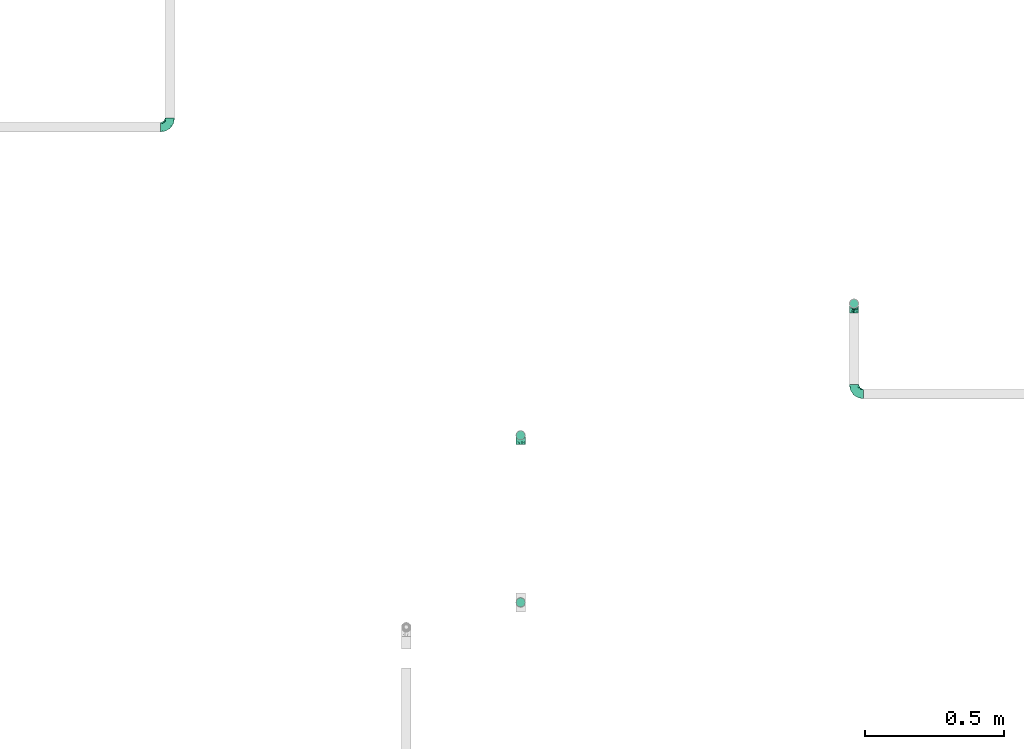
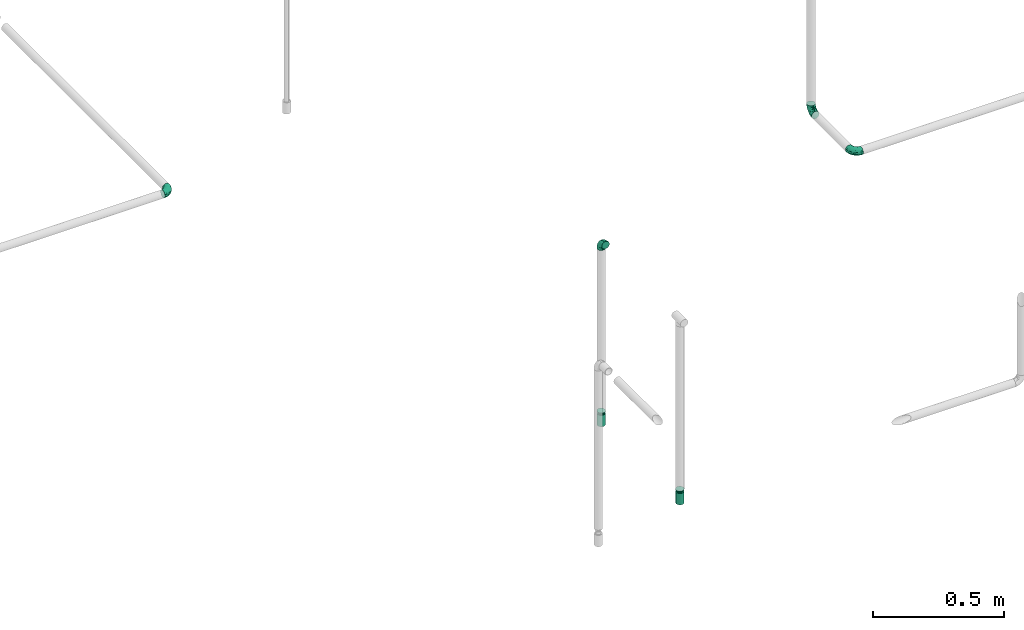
# One storey, part 54 of 94: 6 flow fittings, 2 flow terminals.
"""IFC2X3 building model written with IfcOpenShell, lengths in millimetres."""

from ifc_helpers import new_model, entity, si_unit, converted_unit, derived_unit, direction, frame, origin_with_axes, place, context, subcontext, project, spatial, open_shell, surface_model, source, transform, mapped, type_object, element, save


model = new_model("IFC2X3")

# Units and contexts
model_context = context("Model", 3, precision=0.01, world=frame((0.0, 4.29681676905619e-09, 0.0)), true_north=direction((4.01073788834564e-13, 1.0)))
plan_context = context("Plan", 3, precision=0.01, world=frame((0.0, 4.29681676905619e-09, 0.0)), true_north=direction((4.01073788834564e-13, 1.0)))
body_context = subcontext(model_context, "Body", "Model", "MODEL_VIEW")
ifc_project = project(units=[converted_unit("PLANEANGLEUNIT", "DEGREE", entity("IfcPositiveLengthMeasure", 0.0174532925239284), si_unit("PLANEANGLEUNIT", "RADIAN"), dimensions=[0, 0, 0, 0, 0, 0, 0]), si_unit("AREAUNIT", "SQUARE_METRE"), si_unit("LENGTHUNIT", "METRE", prefix="MILLI"), si_unit("MASSUNIT", "GRAM", prefix="KILO"), si_unit("POWERUNIT", "WATT"), si_unit("PRESSUREUNIT", "PASCAL", prefix="KILO"), si_unit("FORCEUNIT", "NEWTON", prefix="KILO"), si_unit("ELECTRICVOLTAGEUNIT", "VOLT"), si_unit("ELECTRICCURRENTUNIT", "AMPERE"), si_unit("THERMODYNAMICTEMPERATUREUNIT", "DEGREE_CELSIUS"), si_unit("TIMEUNIT", "SECOND"), si_unit("VOLUMEUNIT", "CUBIC_METRE"), derived_unit("LINEARVELOCITYUNIT", [(si_unit("LENGTHUNIT", "METRE"), 1), (si_unit("TIMEUNIT", "SECOND"), -1)]), derived_unit("VOLUMETRICFLOWRATEUNIT", [(si_unit("VOLUMEUNIT", "CUBIC_METRE"), 1), (si_unit("TIMEUNIT", "SECOND"), -1)]), derived_unit("THERMALTRANSMITTANCEUNIT", [(si_unit("POWERUNIT", "WATT"), 1), (si_unit("THERMODYNAMICTEMPERATUREUNIT", "KELVIN"), -1), (si_unit("AREAUNIT", "SQUARE_METRE"), -1)]), derived_unit("SOUNDPRESSUREUNIT", [(si_unit("PRESSUREUNIT", "PASCAL"), 1)])], contexts=[model_context, plan_context])

# Site, building, storey
site_placement = place(None, frame((0.0, -4.29681676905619e-09, 0.0), z_axis=(0.0, 0.0, 1.0), x_axis=(1.0, 0.0, 0.0)))
site = spatial("IfcSite", under=ifc_project, at=site_placement, CompositionType="ELEMENT")
building_placement = place(site_placement, frame((0.0, 4.29681676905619e-09, 0.0), z_axis=(0.0, 0.0, 1.0), x_axis=(1.0, 0.0, 0.0)))
building = spatial("IfcBuilding", under=site, at=building_placement, Name="mc-building", CompositionType="ELEMENT")
storey_placement = place(building_placement, frame((0.0, 0.0, 210900.0), z_axis=(0.0, 0.0, 1.0), x_axis=(1.0, 0.0, 0.0)))
storey = spatial("IfcBuildingStorey", under=building, at=storey_placement, Name="Nivå F", CompositionType="ELEMENT", Elevation=210900.0)

# Flow fittings
pipe_fitting_type_1 = type_object("IfcPipeFittingType", Name="magi_pipe_fe_elbow_short_001", PredefinedType="BEND")
shared_shape_1 = source(origin_with_axes(), body_context, "Body", "SurfaceModel", [
    surface_model("IfcShellBasedSurfaceModel", [(-33.8, 8.45, -14.63583), (-33.8, 4.37404, -16.32415), (-33.8, 11.9501, -11.9501), (-33.8, -11.9501, -11.9501), (-33.8, -14.63583, -8.45), (-33.8, -8.45, -14.63583), (-33.8, 0.0, -16.9), (-33.8, -4.37404, -16.32415), (-33.8, -4.37404, 16.32415), (-33.8, 0.0, 16.9), (-33.8, -8.45, 14.63583), (-33.8, 16.32415, -4.37404), (-33.8, 14.63583, -8.45), (-33.8, -16.32415, -4.37404), (-33.8, -16.9, 0.0), (-33.8, -16.32415, 4.37404), (-33.8, 11.9501, 11.9501), (-33.8, 14.63583, 8.45), (-33.8, 16.32415, 4.37404), (-33.8, 4.37404, 16.32415), (-33.8, 8.45, 14.63583), (-33.8, -14.63583, 8.45), (-33.8, -11.9501, 11.9501), (-33.8, 16.9, 0.0), (-11.9501, 33.8, -11.9501), (0.0, 33.8, -16.9), (-4.37404, 33.8, -16.32415), (-8.45, 33.8, -14.63583), (-14.63583, 33.8, -8.45), (-16.32415, 33.8, -4.37404), (14.63583, 33.8, -8.45), (8.45, 33.8, 14.63583), (16.32415, 33.8, -4.37404), (8.45, 33.8, -14.63583), (11.9501, 33.8, -11.9501), (4.37404, 33.8, -16.32415), (16.32415, 33.8, 4.37404), (16.9, 33.8, 0.0), (-11.9501, 33.8, 11.9501), (-16.32415, 33.8, 4.37404), (-14.63583, 33.8, 8.45), (-8.45, 33.8, 14.63583), (-4.37404, 33.8, 16.32415), (11.9501, 33.8, 11.9501), (14.63583, 33.8, 8.45), (0.0, 33.8, 16.9), (4.37404, 33.8, 16.32415), (-16.9, 33.8, 0.0), (-24.79389, -13.12945, 9.48721), (-22.19287, -9.75018, 12.59315), (-24.09897, -14.97035, 0.0), (-14.93934, -10.76256, 8.5297), (-22.46095, -14.75051, 5.27077), (14.75051, 22.46094, 5.27077), (11.9251, 13.23888, 4.33236), (13.04069, 14.39795, 0.0), (7.71387, 13.68847, 11.55891), (9.75018, 22.19287, 12.59315), (4.10169, 13.0571, 14.04018), (-24.84007, -6.39063, 15.2048), (-25.81779, -2.23879, 16.61097), (-23.66549, 2.59054, 16.87119), (-26.50418, 14.06512, 11.08152), (-24.21253, 17.66365, 7.72657), (-29.58514, 15.86957, 7.00283), (-6.17382, -7.5455, 0.0), (-13.23888, -11.9251, 4.33236), (-14.39795, -13.04069, 0.0), (-17.81434, 18.87373, 11.97104), (-6.30846, 29.15138, 15.82987), (-2.31622, 25.28002, 16.85849), (-29.23923, 10.23435, 13.77053), (-1.45439, -2.85688, 7.61475), (-0.28326, 0.34872, 10.09509), (-5.74484, -4.04709, 10.4122), (-4.41137, 11.31918, 16.59407), (-8.39727, 3.10034, 15.7812), (-1.72649, 9.1306, 15.53089), (-17.39909, 24.75344, 7.64977), (-26.19233, 20.0512, 0.0), (-28.14518, 17.29657, 4.25857), (-26.05147, 6.6281, 15.96447), (-5.87354, 16.61944, 16.86968), (-12.51807, 12.51807, 16.48937), (-10.06312, 7.38516, 16.81295), (-3.01882, 3.01882, 13.81718), (-13.0571, -4.10169, 14.04018), (-16.82553, -0.15166, 16.38038), (10.76256, 14.93934, 8.5297), (13.12945, 24.79389, 9.48721), (6.39063, 24.84007, 15.2048), (2.23879, 25.81779, 16.61097), (-13.68847, -7.71387, 11.55891), (14.97035, 24.09897, 0.0), (-7.30894, 22.89991, 16.09489), (-10.67958, 26.17414, 14.008), (-12.78295, 18.26924, 15.06066), (-13.88562, 22.45231, 12.93244), (-18.04944, 15.16501, 14.04434), (-23.11658, 20.08178, 4.02986), (-21.84989, 21.84989, 0.0), (-18.55817, 25.48277, 3.93065), (-13.95142, 26.94732, 11.03289), (-18.57098, 7.23906, 16.59756), (-16.58335, 4.14122, 16.89279), (-17.96666, 11.46709, 15.63151), (-9.84453, 17.54304, 16.18938), (0.15166, 16.82553, 16.38038), (-23.27207, 11.47201, 14.23154), (3.84842, 5.86994, 10.70473), (-8.0212, -7.54413, 7.93275), (1.00345, -2.19508, 4.57414), (5.13203, 3.01004, 5.90201), (5.24161, 1.7543, 2.53265), (8.70457, 7.04947, 3.99182), (-20.0512, 26.19233, 0.0), (8.4852, 8.76699, 7.09296), (-4.55488, -6.72064, 4.90681), (2.05031, -2.05031, 0.0), (7.5455, 6.17382, 0.0), (-26.75399, 2.1369, -16.845), (-14.61995, 24.73803, -11.27736), (-28.45274, -13.45335, -9.81895), (-26.00469, 6.63555, -15.96645), (-23.06726, 20.04573, -4.26202), (-13.80647, -4.26506, -14.17873), (-14.67501, -0.21081, -16.07388), (-6.7902, -0.2828, -13.8478), (-24.53586, 11.08096, -14.13417), (-26.72048, 14.00837, -11.05776), (10.0967, 24.44989, -12.75976), (5.83237, 21.40218, -15.03047), (6.66249, 28.54238, -15.38093), (-20.38182, 15.48705, -12.74596), (12.53268, 21.23441, -9.15363), (12.54494, 15.67504, -5.54878), (9.7522, 12.89279, -8.66343), (-15.65186, 19.64213, -13.01327), (-12.03528, 20.66498, -14.67665), (-15.61907, 15.61906, -14.83879), (-25.56551, -15.26206, 0.0), (-24.65452, -15.12934, -5.50955), (13.45335, 28.45274, -9.81895), (15.12934, 24.65452, -5.50955), (-7.35442, -8.31014, -5.65563), (-15.67504, -12.54494, -5.54878), (-24.44989, -10.0967, -12.75976), (0.16522, 0.41303, -9.71728), (-5.70658, -5.33066, -8.89288), (-5.13869, -2.37198, -11.53565), (-21.23441, -12.53268, -9.15363), (0.71146, 7.93863, -14.09382), (0.21081, 14.67501, -16.07388), (3.49291, 14.42772, -14.76381), (-24.89911, -2.13088, -16.591), (-28.54238, -6.66249, -15.38093), (-18.44386, -7.71663, -13.26957), (2.13088, 24.89911, -16.591), (-28.64342, 17.44413, -2.89318), (1.70017, -1.28722, -5.09504), (-16.57067, 26.81947, -7.36596), (-17.69055, 27.4263, -3.76405), (-12.89279, -9.7522, -8.66343), (-5.96611, 5.96611, -15.95814), (-20.53709, 20.09345, -8.28985), (-2.1369, 26.75399, -16.845), (-6.89872, 24.58781, -16.02578), (-10.60739, 26.53157, -13.98044), (-21.40218, -5.83237, -15.03047), (2.93192, 5.89627, -11.55917), (6.89393, 12.61842, -11.82233), (5.58056, 5.95325, -8.79455), (-3.99512, 18.61798, -16.89635), (8.31014, 7.35442, -5.65563), (-9.1383, 9.86148, -16.89041), (-9.99983, 16.02119, -16.39699), (-16.68576, 9.78031, -16.34199), (-27.01915, 16.61158, -7.12979), (15.26206, 25.56551, 0.0), (-18.61798, 3.99512, -16.89635), (-19.37495, 27.82495, 0.0), (-12.61842, -6.89393, -11.82233), (-18.84705, 19.14018, -10.96545)], [open_shell([[[0, 1, 2]], [[3, 4, 5]], [[6, 7, 5]], [[8, 9, 10]], [[1, 6, 2]], [[11, 12, 2]], [[4, 2, 6]], [[2, 13, 10]], [[5, 4, 6]], [[2, 4, 13]], [[14, 15, 13]], [[11, 2, 16]], [[11, 17, 18]], [[11, 16, 17]], [[19, 20, 16]], [[16, 2, 10]], [[19, 16, 10]], [[21, 22, 15]], [[22, 13, 15]], [[22, 10, 13]], [[10, 9, 19]], [[11, 18, 23]], [[24, 25, 26]], [[24, 26, 27]], [[24, 28, 29]], [[25, 24, 30]], [[31, 32, 24]], [[33, 30, 34]], [[33, 35, 25]], [[25, 30, 33]], [[32, 30, 24]], [[32, 36, 37]], [[38, 24, 29]], [[39, 40, 29]], [[40, 38, 29]], [[38, 41, 42]], [[38, 31, 24]], [[31, 38, 42]], [[36, 43, 44]], [[36, 32, 43]], [[31, 45, 46]], [[32, 31, 43]], [[42, 45, 31]], [[39, 29, 47]], [[22, 48, 49]], [[15, 14, 50]], [[51, 48, 52]], [[53, 54, 55]], [[48, 22, 21]], [[15, 52, 21]], [[56, 57, 58]], [[49, 10, 22]], [[49, 59, 10]], [[9, 60, 61]], [[62, 63, 64]], [[65, 66, 67]], [[57, 43, 31]], [[62, 68, 63]], [[42, 69, 70]], [[20, 71, 16]], [[8, 60, 9]], [[72, 73, 74]], [[75, 76, 77]], [[16, 62, 17]], [[40, 39, 78]], [[79, 23, 80]], [[64, 18, 17]], [[9, 61, 19]], [[19, 81, 20]], [[82, 83, 84]], [[74, 85, 86]], [[59, 86, 87]], [[88, 89, 57]], [[90, 31, 46]], [[44, 53, 36]], [[46, 45, 91]], [[54, 53, 88]], [[44, 89, 53]], [[92, 86, 49]], [[89, 44, 43]], [[10, 59, 8]], [[53, 55, 93]], [[93, 36, 53]], [[66, 52, 67]], [[94, 82, 70]], [[95, 96, 94]], [[97, 98, 96]], [[79, 99, 100]], [[41, 38, 95]], [[101, 100, 99]], [[68, 78, 63]], [[42, 41, 69]], [[23, 18, 80]], [[95, 94, 69]], [[78, 101, 99]], [[38, 102, 95]], [[70, 45, 42]], [[97, 95, 102]], [[15, 50, 52]], [[90, 57, 31]], [[57, 90, 58]], [[81, 19, 61]], [[103, 104, 84]], [[105, 81, 103]], [[38, 40, 102]], [[106, 96, 83]], [[94, 106, 82]], [[91, 70, 107]], [[71, 62, 16]], [[62, 108, 98]], [[86, 59, 49]], [[67, 52, 50]], [[60, 59, 87]], [[92, 49, 51]], [[86, 85, 76]], [[91, 90, 46]], [[37, 36, 93]], [[107, 77, 58]], [[107, 58, 90]], [[58, 85, 109]], [[110, 74, 92]], [[72, 74, 110]], [[66, 51, 52]], [[72, 111, 112]], [[113, 114, 112]], [[56, 88, 57]], [[52, 48, 21]], [[49, 48, 51]], [[57, 89, 43]], [[53, 89, 88]], [[103, 81, 61]], [[71, 81, 108]], [[18, 64, 80]], [[63, 78, 99]], [[47, 115, 101]], [[101, 115, 100]], [[40, 78, 102]], [[68, 102, 78]], [[97, 96, 95]], [[105, 98, 108]], [[103, 84, 83]], [[107, 70, 82]], [[76, 84, 87]], [[82, 84, 75]], [[70, 91, 45]], [[90, 91, 107]], [[59, 60, 8]], [[61, 60, 87]], [[73, 85, 74]], [[109, 112, 116]], [[103, 61, 104]], [[105, 103, 83]], [[96, 105, 83]], [[81, 105, 108]], [[96, 98, 105]], [[62, 98, 68]], [[61, 87, 104]], [[87, 84, 104]], [[86, 76, 87]], [[77, 76, 85]], [[58, 77, 85]], [[75, 77, 107]], [[82, 75, 107]], [[76, 75, 84]], [[81, 71, 20]], [[62, 71, 108]], [[95, 69, 41]], [[70, 69, 94]], [[62, 64, 17]], [[80, 63, 99]], [[63, 80, 64]], [[80, 99, 79]], [[66, 65, 117]], [[110, 66, 117]], [[112, 114, 116]], [[118, 117, 65]], [[110, 92, 51]], [[112, 111, 113]], [[119, 55, 54]], [[74, 86, 92]], [[58, 109, 56]], [[116, 56, 109]], [[66, 110, 51]], [[72, 110, 117]], [[111, 72, 117]], [[73, 112, 109]], [[117, 118, 111]], [[113, 111, 118]], [[118, 119, 113]], [[114, 119, 54]], [[119, 114, 113]], [[116, 54, 88]], [[54, 116, 114]], [[116, 88, 56]], [[112, 73, 72]], [[85, 73, 109]], [[78, 39, 101]], [[47, 101, 39]], [[102, 68, 97]], [[97, 68, 98]], [[82, 106, 83]], [[94, 96, 106]], [[1, 120, 6]], [[28, 24, 121]], [[3, 122, 4]], [[0, 123, 1]], [[100, 124, 79]], [[125, 126, 127]], [[128, 2, 129]], [[130, 131, 132]], [[128, 129, 133]], [[134, 135, 136]], [[137, 138, 139]], [[128, 0, 2]], [[67, 140, 141]], [[134, 142, 143]], [[141, 13, 4]], [[144, 65, 145]], [[146, 3, 5]], [[147, 148, 149]], [[145, 141, 150]], [[151, 152, 153]], [[154, 7, 6]], [[5, 155, 146]], [[150, 146, 156]], [[155, 5, 7]], [[143, 135, 134]], [[35, 157, 25]], [[23, 79, 158]], [[148, 159, 144]], [[160, 161, 29]], [[145, 162, 144]], [[163, 152, 151]], [[29, 28, 160]], [[121, 164, 160]], [[33, 34, 130]], [[25, 165, 26]], [[26, 165, 166]], [[142, 34, 30]], [[24, 27, 167]], [[124, 161, 164]], [[157, 35, 132]], [[155, 154, 168]], [[123, 0, 128]], [[169, 170, 171]], [[172, 157, 152]], [[26, 166, 27]], [[132, 35, 33]], [[142, 130, 34]], [[168, 154, 126]], [[136, 135, 173]], [[133, 137, 139]], [[2, 12, 129]], [[170, 131, 130]], [[30, 32, 143]], [[172, 174, 175]], [[176, 123, 128]], [[158, 177, 11]], [[135, 55, 119]], [[167, 27, 166]], [[175, 166, 172]], [[137, 167, 138]], [[122, 141, 4]], [[140, 14, 13]], [[32, 37, 178]], [[170, 130, 134]], [[152, 157, 131]], [[165, 157, 172]], [[153, 170, 151]], [[152, 163, 174]], [[168, 125, 156]], [[122, 146, 150]], [[120, 154, 6]], [[179, 174, 126]], [[179, 126, 154]], [[126, 163, 127]], [[162, 145, 150]], [[140, 13, 141]], [[32, 178, 143]], [[55, 143, 178]], [[177, 129, 12]], [[128, 133, 139]], [[176, 128, 139]], [[120, 123, 179]], [[121, 160, 28]], [[161, 100, 180]], [[166, 175, 138]], [[121, 24, 167]], [[161, 47, 29]], [[79, 124, 158]], [[124, 164, 177]], [[161, 124, 100]], [[136, 171, 170]], [[127, 163, 151]], [[147, 171, 159]], [[148, 144, 162]], [[127, 151, 169]], [[127, 181, 125]], [[129, 177, 164]], [[12, 11, 177]], [[159, 65, 144]], [[67, 141, 145]], [[143, 55, 135]], [[135, 119, 173]], [[123, 120, 1]], [[154, 120, 179]], [[157, 165, 25]], [[166, 165, 172]], [[172, 152, 174]], [[176, 139, 175]], [[126, 174, 163]], [[176, 174, 179]], [[174, 176, 175]], [[123, 176, 179]], [[150, 181, 162]], [[127, 149, 181]], [[181, 148, 162]], [[159, 148, 147]], [[171, 136, 173]], [[170, 134, 136]], [[159, 171, 173]], [[171, 147, 169]], [[169, 147, 149]], [[151, 170, 169]], [[164, 182, 129]], [[182, 121, 137]], [[181, 149, 148]], [[169, 149, 127]], [[182, 137, 133]], [[167, 137, 121]], [[166, 138, 167]], [[175, 139, 138]], [[129, 182, 133]], [[121, 182, 164]], [[161, 160, 164]], [[47, 161, 180]], [[177, 158, 124]], [[23, 158, 11]], [[130, 132, 33]], [[157, 132, 131]], [[143, 142, 30]], [[130, 142, 134]], [[154, 155, 7]], [[146, 155, 168]], [[146, 122, 3]], [[141, 122, 150]], [[152, 131, 153]], [[159, 119, 118]], [[67, 145, 65]], [[170, 153, 131]], [[119, 159, 173]], [[159, 118, 65]], [[156, 125, 181]], [[126, 125, 168]], [[150, 156, 181]], [[168, 156, 146]]])]),
])
for number, where, z_axis, x_axis, name in (
    (1, (723741.0277, 437906.03424, 3600.0), (0.0, 0.0, 1.0), (1.0, 0.0, 0.0), "magi_pipe_fe_elbow_short_001"),
    (2, (726197.10222, 436948.06941, 3500.0), (0.0, 0.0, 1.0), (0.0, -1.0, 0.0), "magi_pipe_fe_elbow_short_001"),
    (3, (726197.10222, 437273.06941, 3500.0), (1.0, 0.0, 0.0), (0.0, 1.0, 0.0), "magi_pipe_fe_elbow_short_001"),
    (4, (725000.0, 436800.0, 3600.0), (1.0, 0.0, 0.0), (0.0, 0.0, 1.0), "magi_pipe_fe_elbow_short_001"),
):
    element("IfcFlowFitting", number, at=place(storey_placement, frame(where, z_axis=z_axis, x_axis=x_axis)), inside=storey, type_object=pipe_fitting_type_1, Name=name, context=body_context, shape_type="MappedRepresentation", body=[
        mapped(shared_shape_1, transform((0.0, 0.0, 0.0), scale=1.0)),
    ])
pipe_fitting_type_2 = type_object("IfcPipeFittingType", Name="magi_pipe_fe_reducer_centric_short_NOR", PredefinedType="TRANSITION")
shared_shape_2 = source(origin_with_axes(), body_context, "Body", "SurfaceModel", [
    surface_model("IfcShellBasedSurfaceModel", [(-2.0, -7.56604, -7.56604), (-2.0, -10.33541, -2.76936), (-2.0, -5.35, -9.26647), (-2.0, 5.35, -9.26647), (-2.0, 10.33541, -2.76936), (-2.0, 7.56604, -7.56604), (12.4, 11.9501, 11.9501), (12.4, 0.0, 16.9), (12.4, 11.9501, -11.9501), (12.4, 16.9, 0.0), (0.0, -10.7, 0.0), (0.0, -5.35, 9.26647), (0.0, -5.35, -9.26647), (0.0, 10.7, 0.0), (12.4, 15.66253, -2.98753), (12.4, 8.96258, -13.18758), (0.0, 6.6875, -6.94985), (12.4, -15.66253, -2.98753), (12.4, -16.9, 0.0), (12.4, 5.97505, -14.42505), (0.0, 5.35, -9.26647), (12.4, 14.42505, -5.97505), (0.0, 8.025, -4.63324), (0.0, 9.3625, -2.31662), (0.0, -9.3625, -2.31662), (0.0, -8.025, -4.63324), (12.4, -14.42505, -5.97505), (12.4, 13.18758, -8.96258), (12.4, -13.18758, -8.96258), (12.4, -11.9501, -11.9501), (0.0, -6.6875, -6.94985), (12.4, -8.96258, -13.18758), (12.4, -5.97505, -14.42505), (12.4, -15.66253, 2.98753), (12.4, -8.96258, 13.18758), (0.0, -6.6875, 6.94985), (12.4, -11.9501, 11.9501), (12.4, 15.66253, 2.98753), (12.4, -5.97505, 14.42505), (12.4, -14.42505, 5.97505), (0.0, -8.025, 4.63324), (0.0, -9.3625, 2.31662), (0.0, 9.3625, 2.31662), (0.0, 8.025, 4.63324), (12.4, 14.42505, 5.97505), (12.4, -13.18758, 8.96258), (12.4, 13.18758, 8.96258), (0.0, 6.6875, 6.94985), (12.4, 8.96258, 13.18758), (0.0, 5.35, 9.26647), (12.4, 5.97505, 14.42505), (14.4, 4.37404, -16.32415), (14.4, 8.45, -14.63583), (14.4, 11.9501, -11.9501), (14.4, -8.45, -14.63583), (14.4, 16.32415, -4.37404), (14.4, 16.32415, 4.37404), (14.4, 14.63583, -8.45), (14.4, 0.0, -16.9), (14.4, -4.37404, -16.32415), (14.4, -11.9501, -11.9501), (14.4, -16.32415, -4.37404), (14.4, -14.63583, -8.45), (14.4, -16.32415, 4.37404), (14.4, 16.9, 0.0), (14.4, 14.63583, 8.45), (14.4, 11.9501, 11.9501), (14.4, 4.37404, 16.32415), (14.4, 8.45, 14.63583), (14.4, 0.0, 16.9), (14.4, -14.63583, 8.45), (14.4, -16.9, 0.0), (14.4, -8.45, 14.63583), (14.4, -11.9501, 11.9501), (14.4, -4.37404, 16.32415), (12.4, 4.37404, 16.32415), (12.4, -14.63583, 8.45), (12.4, 16.32415, 4.37404), (12.4, 8.45, 14.63583), (12.4, 14.63583, 8.45), (12.4, -8.45, 14.63583), (12.4, -4.37404, 16.32415), (12.4, -16.32415, 4.37404), (12.4, -16.32415, -4.37404), (12.4, -8.45, -14.63583), (12.4, 16.32415, -4.37404), (12.4, 14.63583, -8.45), (12.4, 8.45, -14.63583), (12.4, 4.37404, -16.32415), (12.4, 0.0, -16.9), (12.4, -14.63583, -8.45), (12.4, -4.37404, -16.32415), (-2.0, 2.76936, 10.33541), (-2.0, 0.0, 10.7), (-2.0, 5.35, 9.26647), (-2.0, 7.56604, 7.56604), (-2.0, 9.26647, 5.35), (-2.0, 10.33541, 2.76936), (-2.0, -10.33541, 2.76936), (-2.0, -2.76936, 10.33541), (-2.0, -7.56604, 7.56604), (-2.0, -5.35, 9.26647), (-2.0, -9.26647, 5.35), (-2.0, -10.7, 0.0), (-2.0, 9.26647, -5.35), (-2.0, 2.76936, -10.33541), (-2.0, -9.26647, -5.35), (-2.0, 0.0, -10.7), (-2.0, -2.76936, -10.33541), (-2.0, 10.7, 0.0), (0.0, 0.0, -10.7), (0.0, 2.76936, -10.33541), (0.0, 10.33541, -2.76936), (0.0, 7.56604, -7.56604), (0.0, -10.33541, -2.76936), (0.0, 9.26647, -5.35), (0.0, 0.0, 10.7), (0.0, -2.76936, -10.33541), (0.0, -7.56604, -7.56604), (0.0, -9.26647, -5.35), (0.0, 10.33541, 2.76936), (0.0, 9.26647, 5.35), (0.0, 7.56604, 7.56604), (0.0, 2.76936, 10.33541), (0.0, -7.56604, 7.56604), (0.0, -10.33541, 2.76936), (0.0, -9.26647, 5.35), (0.0, -2.76936, 10.33541), (0.0, 2.675, -9.26647), (0.0, -2.675, -9.26647), (12.4, 2.98753, -15.66253), (0.0, 0.0, -9.26647), (12.4, -2.98753, -15.66253), (0.0, -2.675, 9.26647), (0.0, 2.675, 9.26647), (12.4, -2.98753, 15.66253), (0.0, 0.0, 9.26647), (12.4, 2.98753, 15.66253)], [open_shell([[[0, 1, 2]], [[3, 4, 5]], [[6, 7, 8]], [[8, 9, 6]], [[10, 11, 12]], [[13, 9, 14]], [[15, 16, 8]], [[17, 18, 10]], [[15, 19, 20]], [[21, 22, 23]], [[24, 25, 26]], [[22, 21, 27]], [[28, 26, 25]], [[29, 30, 31]], [[12, 32, 31]], [[10, 18, 33]], [[34, 35, 36]], [[37, 9, 13]], [[34, 38, 11]], [[39, 40, 41]], [[42, 43, 44]], [[40, 39, 45]], [[46, 44, 43]], [[6, 47, 48]], [[49, 50, 48]], [[51, 52, 53]], [[54, 51, 53]], [[53, 55, 56]], [[55, 53, 57]], [[53, 56, 54]], [[58, 54, 59]], [[58, 51, 54]], [[60, 61, 62]], [[61, 60, 54]], [[54, 63, 61]], [[56, 55, 64]], [[56, 65, 66]], [[56, 66, 67]], [[67, 63, 54]], [[67, 66, 68]], [[63, 67, 69]], [[69, 70, 63]], [[71, 61, 63]], [[70, 72, 73]], [[70, 69, 72]], [[72, 69, 74]], [[54, 56, 67]], [[75, 76, 7]], [[77, 75, 78]], [[6, 79, 77]], [[6, 77, 78]], [[76, 75, 77]], [[80, 76, 36]], [[80, 81, 7]], [[7, 76, 80]], [[82, 76, 77]], [[82, 83, 18]], [[82, 77, 84]], [[77, 85, 8]], [[8, 85, 86]], [[8, 87, 88]], [[84, 77, 8]], [[88, 89, 8]], [[83, 29, 90]], [[29, 83, 84]], [[84, 89, 91]], [[83, 82, 84]], [[8, 89, 84]], [[85, 77, 9]], [[83, 61, 18]], [[90, 62, 83]], [[54, 29, 84]], [[90, 29, 60]], [[59, 84, 91]], [[83, 62, 61]], [[61, 71, 18]], [[59, 54, 84]], [[60, 29, 54]], [[60, 62, 90]], [[58, 59, 91]], [[91, 89, 58]], [[88, 51, 89]], [[87, 52, 88]], [[57, 8, 86]], [[87, 8, 53]], [[55, 86, 85]], [[87, 53, 52]], [[52, 51, 88]], [[64, 55, 85]], [[57, 86, 55]], [[57, 53, 8]], [[9, 64, 85]], [[89, 51, 58]], [[77, 56, 9]], [[79, 65, 77]], [[68, 6, 78]], [[79, 6, 66]], [[67, 78, 75]], [[77, 65, 56]], [[56, 64, 9]], [[67, 68, 78]], [[66, 6, 68]], [[66, 65, 79]], [[69, 67, 75]], [[75, 7, 69]], [[81, 74, 7]], [[80, 72, 81]], [[70, 36, 76]], [[80, 36, 73]], [[63, 76, 82]], [[80, 73, 72]], [[72, 74, 81]], [[71, 63, 82]], [[70, 76, 63]], [[70, 73, 36]], [[18, 71, 82]], [[7, 74, 69]], [[92, 1, 93]], [[94, 1, 92]], [[95, 96, 97]], [[95, 97, 94]], [[98, 93, 1]], [[99, 100, 101]], [[99, 93, 100]], [[100, 98, 102]], [[93, 98, 100]], [[98, 1, 103]], [[94, 97, 1]], [[1, 97, 4]], [[5, 4, 104]], [[4, 3, 1]], [[105, 1, 3]], [[1, 0, 106]], [[2, 107, 108]], [[2, 1, 105]], [[105, 107, 2]], [[4, 97, 109]], [[20, 110, 111]], [[112, 20, 113]], [[114, 20, 112]], [[112, 113, 115]], [[116, 114, 112]], [[110, 12, 117]], [[110, 20, 12]], [[118, 114, 119]], [[114, 118, 12]], [[20, 114, 12]], [[112, 13, 120]], [[120, 121, 122]], [[120, 122, 123]], [[116, 112, 123]], [[123, 122, 49]], [[116, 124, 114]], [[125, 124, 126]], [[10, 114, 125]], [[124, 127, 11]], [[125, 114, 124]], [[127, 124, 116]], [[123, 112, 120]], [[1, 114, 103]], [[106, 119, 1]], [[12, 0, 2]], [[106, 0, 118]], [[117, 2, 108]], [[1, 119, 114]], [[114, 10, 103]], [[117, 12, 2]], [[118, 0, 12]], [[118, 119, 106]], [[110, 117, 108]], [[108, 107, 110]], [[105, 111, 107]], [[3, 20, 105]], [[115, 5, 104]], [[3, 5, 113]], [[112, 104, 4]], [[3, 113, 20]], [[20, 111, 105]], [[13, 112, 4]], [[115, 104, 112]], [[115, 113, 5]], [[109, 13, 4]], [[107, 111, 110]], [[97, 120, 109]], [[96, 121, 97]], [[49, 95, 94]], [[96, 95, 122]], [[123, 94, 92]], [[97, 121, 120]], [[120, 13, 109]], [[123, 49, 94]], [[122, 95, 49]], [[122, 121, 96]], [[116, 123, 92]], [[92, 93, 116]], [[99, 127, 93]], [[101, 11, 99]], [[126, 100, 102]], [[101, 100, 124]], [[125, 102, 98]], [[101, 124, 11]], [[11, 127, 99]], [[10, 125, 98]], [[126, 102, 125]], [[126, 124, 100]], [[103, 10, 98]], [[93, 127, 116]], [[18, 7, 36]], [[18, 29, 8]], [[89, 8, 29]], [[18, 8, 7]], [[13, 11, 49]], [[13, 20, 12]], [[13, 12, 11]], [[24, 26, 17]], [[10, 24, 17]], [[16, 15, 20]], [[30, 12, 31]], [[23, 14, 21]], [[19, 128, 20]], [[27, 8, 16]], [[32, 12, 129]], [[30, 28, 25]], [[130, 131, 128]], [[129, 132, 32]], [[16, 22, 27]], [[13, 14, 23]], [[128, 19, 130]], [[130, 89, 131]], [[131, 132, 129]], [[89, 132, 131]], [[28, 30, 29]], [[42, 44, 37]], [[13, 42, 37]], [[35, 34, 11]], [[47, 49, 48]], [[41, 33, 39]], [[38, 133, 11]], [[45, 36, 35]], [[50, 49, 134]], [[47, 46, 43]], [[135, 136, 133]], [[134, 137, 50]], [[35, 40, 45]], [[10, 33, 41]], [[133, 38, 135]], [[135, 7, 136]], [[136, 137, 134]], [[7, 137, 136]], [[46, 47, 6]]])]),
])
for number, where, z_axis, x_axis, name in (
    (5, (725000.0, 436800.0, 2794.49074000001), (0.0, 1.0, 0.0), (0.0, 0.0, 1.0), "magi_pipe_fe_reducer_centric_short_NOR"),
    (6, (725000.0, 436200.0, 2794.49074000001), (0.0, -1.0, 0.0), (0.0, 0.0, 1.0), "magi_pipe_fe_reducer_centric_short_NOR"),
):
    element("IfcFlowFitting", number, at=place(storey_placement, frame(where, z_axis=z_axis, x_axis=x_axis)), inside=storey, type_object=pipe_fitting_type_2, Name=name, context=body_context, shape_type="MappedRepresentation", body=[
        mapped(shared_shape_2, transform((0.0, 0.0, 0.0), scale=1.0)),
    ])

# Flow terminals
fire_suppression_terminal_type = type_object("IfcFireSuppressionTerminalType", Name="SP-15-K80-68DGR-STD-HIMLING", PredefinedType="NOTDEFINED")
shared_shape_3 = source(origin_with_axes(), body_context, "Body", "SurfaceModel", [
    surface_model("IfcShellBasedSurfaceModel", [(4.1411, -15.45481, 53.0), (8.0, -13.85641, 53.0), (11.31371, -11.31371, 53.0), (-8.0, -13.85641, 53.0), (15.45481, -4.1411, 53.0), (16.0, 0.0, 53.0), (13.85641, -8.0, 53.0), (0.0, -16.0, 53.0), (-4.1411, -15.45481, 53.0), (-13.85641, -8.0, 53.0), (-11.31371, -11.31371, 53.0), (-15.45481, -4.1411, 53.0), (15.45481, 4.1411, 53.0), (13.85641, 8.0, 53.0), (11.31371, 11.31371, 53.0), (-4.1411, 15.45481, 53.0), (8.0, 13.85641, 53.0), (4.1411, 15.45481, 53.0), (0.0, 16.0, 53.0), (-13.85641, 8.0, 53.0), (-15.45481, 4.1411, 53.0), (-16.0, 0.0, 53.0), (-11.31371, 11.31371, 53.0), (-8.0, 13.85641, 53.0), (0.0, 16.0, 0.0), (4.1411, 15.45481, 0.0), (8.0, 13.85641, 0.0), (-4.1411, 15.45481, 0.0), (11.31371, 11.31371, 0.0), (13.85641, 8.0, 0.0), (15.45481, 4.1411, 0.0), (-15.45481, -4.1411, 0.0), (-11.31371, 11.31371, 0.0), (-8.0, 13.85641, 0.0), (-13.85641, 8.0, 0.0), (-15.45481, 4.1411, 0.0), (-16.0, 0.0, 0.0), (4.1411, -15.45481, 0.0), (16.0, 0.0, 0.0), (15.45481, -4.1411, 0.0), (13.85641, -8.0, 0.0), (11.31371, -11.31371, 0.0), (8.0, -13.85641, 0.0), (-8.0, -13.85641, 0.0), (-13.85641, -8.0, 0.0), (-11.31371, -11.31371, 0.0), (0.0, -16.0, 0.0), (-4.1411, -15.45481, 0.0)], [open_shell([[[0, 1, 2]], [[3, 0, 2]], [[4, 5, 2]], [[4, 2, 6]], [[3, 2, 5]], [[7, 3, 8]], [[7, 0, 3]], [[3, 9, 10]], [[9, 3, 11]], [[5, 11, 3]], [[5, 12, 11]], [[12, 13, 14]], [[15, 12, 14]], [[16, 17, 18]], [[14, 16, 15]], [[18, 15, 16]], [[11, 19, 20]], [[21, 11, 20]], [[22, 15, 23]], [[15, 22, 19]], [[19, 11, 15]], [[11, 12, 15]], [[24, 25, 26]], [[27, 24, 26]], [[28, 29, 30]], [[27, 26, 28]], [[27, 28, 31]], [[27, 32, 33]], [[32, 27, 34]], [[34, 31, 35]], [[31, 34, 27]], [[35, 31, 36]], [[28, 30, 31]], [[37, 38, 39]], [[37, 39, 40]], [[41, 42, 37]], [[41, 37, 40]], [[38, 37, 43]], [[44, 43, 45]], [[43, 44, 31]], [[43, 46, 47]], [[43, 31, 38]], [[37, 46, 43]], [[38, 31, 30]], [[11, 31, 44]], [[45, 9, 44]], [[3, 43, 47]], [[45, 43, 10]], [[8, 47, 46]], [[31, 21, 36]], [[31, 11, 21]], [[44, 9, 11]], [[45, 10, 9]], [[3, 10, 43]], [[47, 8, 3]], [[46, 7, 8]], [[0, 37, 42]], [[41, 1, 42]], [[6, 40, 39]], [[41, 40, 2]], [[4, 39, 38]], [[37, 0, 7]], [[42, 1, 0]], [[41, 2, 1]], [[40, 6, 2]], [[4, 6, 39]], [[38, 5, 4]], [[37, 7, 46]], [[12, 38, 30]], [[13, 30, 29]], [[16, 26, 25]], [[17, 25, 24]], [[30, 13, 12]], [[12, 5, 38]], [[28, 14, 13]], [[28, 26, 14]], [[14, 26, 16]], [[25, 17, 16]], [[28, 13, 29]], [[24, 18, 17]], [[15, 27, 33]], [[32, 23, 33]], [[19, 34, 35]], [[32, 34, 22]], [[20, 35, 36]], [[27, 15, 18]], [[33, 23, 15]], [[32, 22, 23]], [[34, 19, 22]], [[20, 19, 35]], [[36, 21, 20]], [[27, 18, 24]]])]),
])
for number, where, z_axis, x_axis in (
    (7, (725000.0, 436800.0, 2797.53873999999), (0.0, 0.0, -1.0), (-1.0, 0.0, 0.0)),
    (8, (725000.0, 436200.0, 2797.53873999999), (0.0, 0.0, -1.0), (-1.0, 0.0, 0.0)),
):
    element("IfcFlowTerminal", number, at=place(storey_placement, frame(where, z_axis=z_axis, x_axis=x_axis)), inside=storey, type_object=fire_suppression_terminal_type, Name="SP-15-K80-68DGR-STD-HIMLING", context=body_context, shape_type="MappedRepresentation", body=[
        mapped(shared_shape_3, transform((0.0, 0.0, 0.0), scale=1.0)),
    ])

save(model, "model.ifc")
